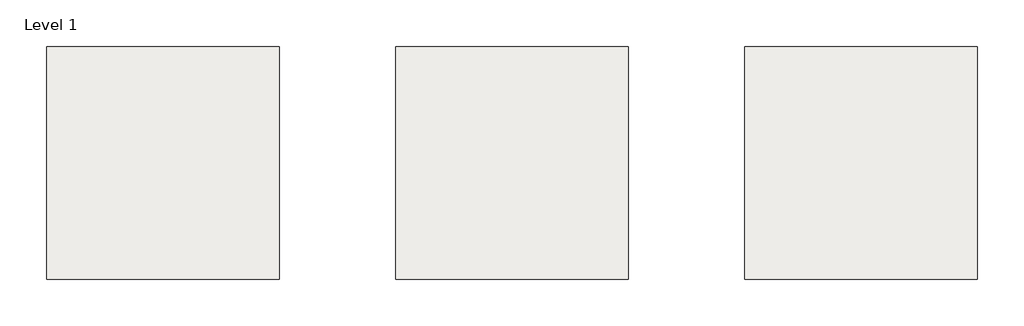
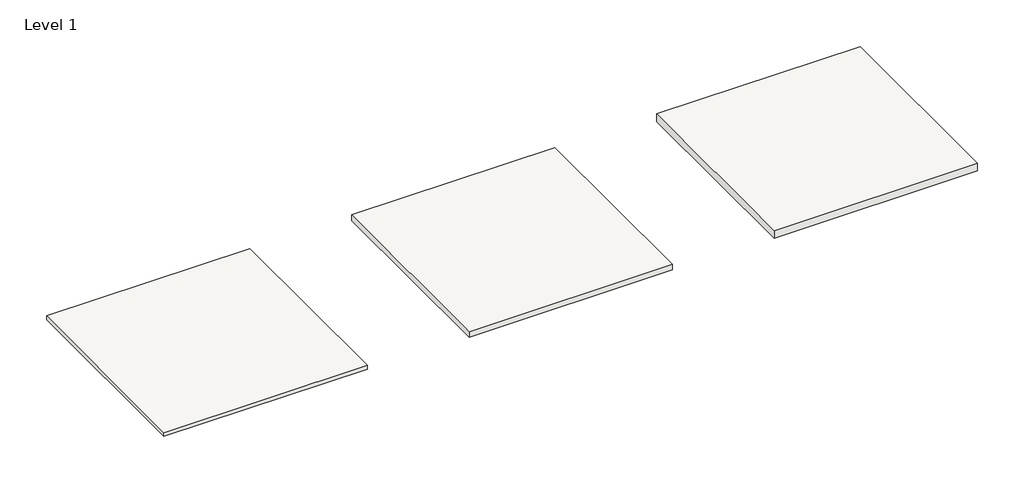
# One storey: 3 slabs.
"""IFC4 building model written with IfcOpenShell, lengths in millimetres."""

from ifc_helpers import new_model, si_unit, frame, origin, place, context, project, spatial, polyline, outline, extrude, element, save

model = new_model("IFC4")

# Units and contexts
model_context = context("Model", 3, world=origin())
ifc_project = project(units=[si_unit("LENGTHUNIT", "METRE", prefix="MILLI")], contexts=[model_context])

# Site, building, storey
site = spatial("IfcSite", under=ifc_project)
building = spatial("IfcBuilding", under=site)
storey = spatial("IfcBuildingStorey", under=building, Name="Level 1", Elevation=0.0)

# Slabs
placement = place(None, origin())
element("IfcSlab", 1, ObjectType="SOFALCA-ICB-1000x500mm-20mm", at=placement, inside=storey, context=model_context, shape_type="SweptSolid", body=[
    extrude(outline(polyline([(3177.1774732, 1373.495205), (3177.1774732, 373.495205), (2177.1774732, 373.495205), (2177.1774732, 1373.495205), (3177.1774732, 1373.495205)])), frame((0.0, 0.0, -20.0), z_axis=(0.0, 0.0, 1.0), x_axis=(1.0, 0.0, 0.0)), (0.0, 0.0, 1.0), 20.0),
])
element("IfcSlab", 2, ObjectType="SOFALCA-ICB-1000x500mm-30mm", at=placement, inside=storey, context=model_context, shape_type="SweptSolid", body=[
    extrude(outline(polyline([(4677.1774732, 1373.495205), (4677.1774732, 373.495205), (3677.1774732, 373.495205), (3677.1774732, 1373.495205), (4677.1774732, 1373.495205)])), frame((0.0, 0.0, -30.0), z_axis=(0.0, 0.0, 1.0), x_axis=(1.0, 0.0, 0.0)), (0.0, 0.0, 1.0), 30.0),
])
element("IfcSlab", 3, ObjectType="SOFALCA-ICB-1000x500mm-40mm", at=placement, inside=storey, context=model_context, shape_type="SweptSolid", body=[
    extrude(outline(polyline([(6177.1774732, 1373.495205), (6177.1774732, 373.495205), (5177.1774732, 373.495205), (5177.1774732, 1373.495205), (6177.1774732, 1373.495205)])), frame((0.0, 0.0, -40.0), z_axis=(0.0, 0.0, 1.0), x_axis=(1.0, 0.0, 0.0)), (0.0, 0.0, 1.0), 40.0),
])

save(model, "model.ifc")
